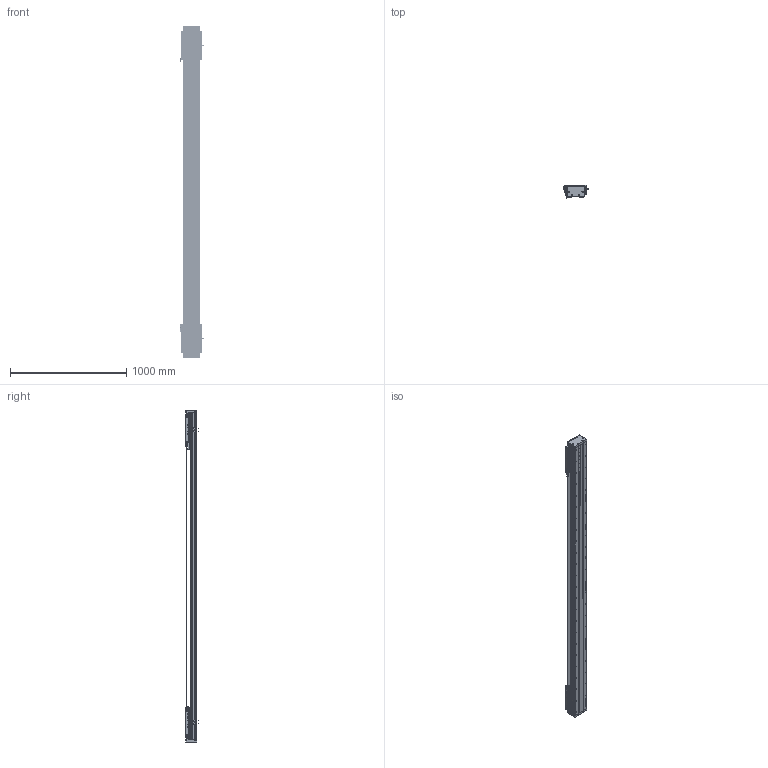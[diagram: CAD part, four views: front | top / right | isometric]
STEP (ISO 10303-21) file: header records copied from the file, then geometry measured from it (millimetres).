
FILE_DESCRIPTION (( 'STEP AP203' ), '1' );
FILE_NAME ('DA-C145-2-C3-T2240-C010-0.2 眻盄萇儂.STEP', '2025-08-13T10:26:43', ( '' ), ( '' ), 'SwSTEP 2.0', 'SolidWorks 2019', '' );
FILE_SCHEMA (( 'CONFIG_CONTROL_DESIGN' ));
Length unit declared in the file: millimetre
Products named in the file (38): 葩璃 DA145-C3-DP-A-00 菜えA^CU145-W 幗紩賑怢; TAY01-M8; 葩璃 CU145 詩湍郪璃^DA-C145-2-C3-T-C010-0.2; IU-CU145-L 菁釱絳寢; 复件 DA145-DG 钢带端盖^复件 CU145 钢带组件_DA-C145-2-C3-T-C010-0.2; 葩璃 DA95-HXJ-00 遣喳砎蝶^DA-C145-2-C3-T-C010-0.2; 复件 半圆头内六角螺钉 M3×6^CU145-W 滚珠滑台; DKW168-HXJ-ZJ-00 笢潔滅袉砎蝶; 葩璃 DMA-010-0.2 黍杅芛^DA-C145-2-C3-T-C010-0.2; DKW-KGZ-ZJ-00 中间光电开关支架; 复件 DA145-C3-YB-B-00 压板B^CU145-W 滚珠滑台; 复件 DA95-DB-00  挡板^CU145-W 滚珠滑台; 复件 DA146 钢带垫块^复件 CU145 钢带组件_DA-C145-2-C3-T-C010-0.2; CU145-W 幗紩賑怢; 葩璃 CKMA01-W060-TRL^DA-C145-2-C3-T-C010-0.2; CU145-W 幗紩賑怢-1; 复件 DA145-GYP-00 光电感应片^DA-C145-2-C3-T-C010-0.2; DKW-GYP-ZJ-00 笢潔嫖萇覜茼え; 葩璃 DA95-GT-T-00^IU-CU145-L 菁釱絳寢; 复件 DA145-C3-DK-00 挡块^CU145-W 滚珠滑台; 葩璃 PM-T45^DA-C145-2-C3-T-C010-0.2; CU145-W-00 珨极趙賑雄怢啣-1; 66245-CU145-HT-W-00 賑雄怢啣(3D芞祧)(00); 复件 DA145 钢带^复件 CU145 钢带组件_DA-C145-2-C3-T-C010-0.2; 葩璃 DA145-C3-DP-B-00 菜えB^CU145-W 幗紩賑怢; 复件 内六角平端紧定螺钉 GB.T77-2000 M5×10^CU145-W 滚珠滑台; CU145-W-00 珨极趙賑雄怢啣; 复件 DA95-HK-GT-00 滑块钢轨^CU145-W-00 一体化滑动台板; 葩璃 XD-U-02L 棠掑喜^DA-C145-2-C3-T-C010-0.2; 复件 纯铜油杯 6x6mm^CU145-W 滚珠滑台; 葩璃 CKM03-W060-C1C2-TP-0.2^DA-C145-2-C3-T-C010-0.2; 复件 DA145-C3-YB-A-00 压板A^CU145-W 滚珠滑台; 复件 DA95-MFP-01 密封片^CU145-W 滚珠滑台; 葩璃 PM-Y65^DA-C145-2-C3-T-C010-0.2; 复件 DA146 钢带拉块^复件 CU145 钢带组件_DA-C145-2-C3-T-C010-0.2; IU-CU145-L-00 菁釱(L2820); DA-C145-2-C3-T2240-C010-0.2 眻盄萇儂; 葩璃 鞠褒情蹟譫 M3^DA-C145-2-C3-T-C010-0.2
Assembly tree (180 placements, depth 4):
  DA-C145-2-C3-T2240-C010-0.2 眻盄萇儂
    IU-CU145-L 菁釱絳寢
      IU-CU145-L-00 菁釱(L2820)
      葩璃 DA95-GT-T-00^IU-CU145-L 菁釱絳寢  x4
    葩璃 CU145 詩湍郪璃^DA-C145-2-C3-T-C010-0.2
      复件 DA145-DG 钢带端盖^复件 CU145 钢带组件_DA-C145-2-C3-T-C010-0.2  x2
      复件 DA146 钢带拉块^复件 CU145 钢带组件_DA-C145-2-C3-T-C010-0.2  x2
      复件 DA146 钢带垫块^复件 CU145 钢带组件_DA-C145-2-C3-T-C010-0.2  x2
      复件 DA145 钢带^复件 CU145 钢带组件_DA-C145-2-C3-T-C010-0.2
    CU145-W 幗紩賑怢
      CU145-W-00 珨极趙賑雄怢啣
        66245-CU145-HT-W-00 賑雄怢啣(3D芞祧)(00)
        复件 DA95-HK-GT-00 滑块钢轨^CU145-W-00 一体化滑动台板  x8
      复件 DA95-MFP-01 密封片^CU145-W 滚珠滑台  x8
      复件 DA95-DB-00  挡板^CU145-W 滚珠滑台  x8
      复件 内六角平端紧定螺钉 GB.T77-2000 M5×10^CU145-W 滚珠滑台  x4
      复件 纯铜油杯 6x6mm^CU145-W 滚珠滑台  x4
      复件 半圆头内六角螺钉 M3×6^CU145-W 滚珠滑台  x16
      复件 DA145-C3-DK-00 挡块^CU145-W 滚珠滑台  x4
      葩璃 DA145-C3-DP-B-00 菜えB^CU145-W 幗紩賑怢  x2
      复件 DA145-C3-YB-B-00 压板B^CU145-W 滚珠滑台  x2
      葩璃 DA145-C3-DP-A-00 菜えA^CU145-W 幗紩賑怢  x3
      复件 DA145-C3-YB-A-00 压板A^CU145-W 滚珠滑台  x3
      TAY01-M8  x4
    CU145-W 幗紩賑怢-1
      CU145-W-00 珨极趙賑雄怢啣-1
        66245-CU145-HT-W-00 賑雄怢啣(3D芞祧)(00)
        复件 DA95-HK-GT-00 滑块钢轨^CU145-W-00 一体化滑动台板  x8
      复件 DA95-MFP-01 密封片^CU145-W 滚珠滑台  x8
      复件 DA95-DB-00  挡板^CU145-W 滚珠滑台  x8
      复件 内六角平端紧定螺钉 GB.T77-2000 M5×10^CU145-W 滚珠滑台  x4
      复件 纯铜油杯 6x6mm^CU145-W 滚珠滑台  x4
      复件 半圆头内六角螺钉 M3×6^CU145-W 滚珠滑台  x16
      复件 DA145-C3-DK-00 挡块^CU145-W 滚珠滑台  x4
      葩璃 DA145-C3-DP-B-00 菜えB^CU145-W 幗紩賑怢  x2
      复件 DA145-C3-YB-B-00 压板B^CU145-W 滚珠滑台  x2
      葩璃 DA145-C3-DP-A-00 菜えA^CU145-W 幗紩賑怢  x3
      复件 DA145-C3-YB-A-00 压板A^CU145-W 滚珠滑台  x3
      TAY01-M8  x4
    葩璃 CKMA01-W060-TRL^DA-C145-2-C3-T-C010-0.2
    葩璃 PM-T45^DA-C145-2-C3-T-C010-0.2  x4
    葩璃 XD-U-02L 棠掑喜^DA-C145-2-C3-T-C010-0.2
    葩璃 DA95-HXJ-00 遣喳砎蝶^DA-C145-2-C3-T-C010-0.2  x4
    葩璃 CKM03-W060-C1C2-TP-0.2^DA-C145-2-C3-T-C010-0.2  x2
    葩璃 DMA-010-0.2 黍杅芛^DA-C145-2-C3-T-C010-0.2  x2
    复件 DA145-GYP-00 光电感应片^DA-C145-2-C3-T-C010-0.2  x2
    DKW-GYP-ZJ-00 笢潔嫖萇覜茼え
    DKW-KGZ-ZJ-00 中间光电开关支架
    葩璃 PM-Y65^DA-C145-2-C3-T-C010-0.2
    葩璃 鞠褒情蹟譫 M3^DA-C145-2-C3-T-C010-0.2  x8
    DKW168-HXJ-ZJ-00 笢潔滅袉砎蝶
Bounding box: 213.7 x 108.45 x 2856 mm (x, y, z)
Volume: 15169682.8 mm3; surface area: 4840479.6 mm2
Topology: 175 solids, 239 shells, 7667 faces, 20901 edges, 12953 vertices
Faces by surface type: cylinder 3372, plane 2955, cone 1184, torus 140, sphere 8, bspline 8
Entity records: 146504 total; most frequent: CARTESIAN_POINT 42890, ORIENTED_EDGE 20488, DIRECTION 19413, EDGE_CURVE 10244, AXIS2_PLACEMENT_3D 7151, VERTEX_POINT 6652, LINE 5111, VECTOR 5111
